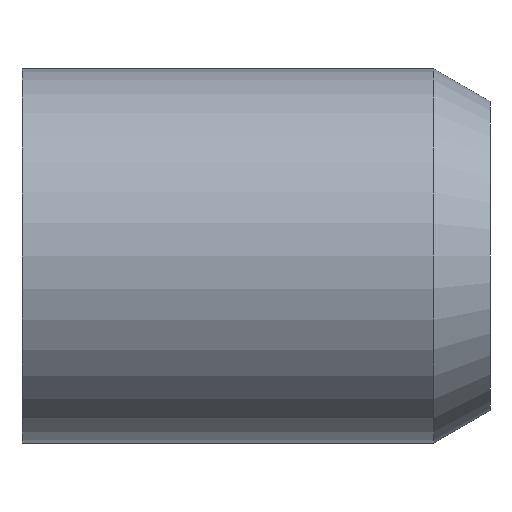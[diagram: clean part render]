
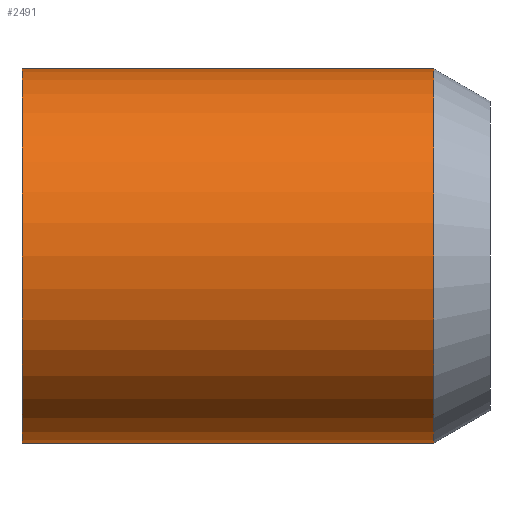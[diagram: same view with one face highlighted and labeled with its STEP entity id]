
A CAD part, left-side view. The second image highlights one B-rep face of the part: STEP entity #2491.
In plain terms, the highlighted cylindrical face has radius 4 mm (diameter 8 mm), a full revolution.
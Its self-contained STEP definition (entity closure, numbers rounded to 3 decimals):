
#202 = AXIS2_PLACEMENT_3D ( 'NONE', #2806, #1344, #586 ) ;
#395 = CIRCLE ( 'NONE', #1564, 4. ) ;
#470 = ORIENTED_EDGE ( 'NONE', *, *, #1708, .T. ) ;
#586 = DIRECTION ( 'NONE',  ( 1., 0., 0. ) ) ;
#1205 = DIRECTION ( 'NONE',  ( 1., 0., 0. ) ) ;
#1344 = DIRECTION ( 'NONE',  ( 0., -1., 0. ) ) ;
#1513 = CYLINDRICAL_SURFACE ( 'NONE', #4484, 4. ) ;
#1564 = AXIS2_PLACEMENT_3D ( 'NONE', #2065, #3539, #4613 ) ;
#1708 = EDGE_CURVE ( 'NONE', #2674, #2674, #395, .T. ) ;
#1974 = FACE_OUTER_BOUND ( 'NONE', #3252, .T. ) ;
#2065 = CARTESIAN_POINT ( 'NONE',  ( 0., 1.2, 0. ) ) ;
#2264 = VERTEX_POINT ( 'NONE', #4368 ) ;
#2491 = ADVANCED_FACE ( 'NONE', ( #1974, #3461 ), #1513, .T. ) ;
#2674 = VERTEX_POINT ( 'NONE', #4722 ) ;
#2806 = CARTESIAN_POINT ( 'NONE',  ( 0., 10., 0. ) ) ;
#3184 = EDGE_CURVE ( 'NONE', #2264, #2264, #3923, .T. ) ;
#3252 = EDGE_LOOP ( 'NONE', ( #470 ) ) ;
#3461 = FACE_OUTER_BOUND ( 'NONE', #4575, .T. ) ;
#3539 = DIRECTION ( 'NONE',  ( 0., 1., 0. ) ) ;
#3585 = ORIENTED_EDGE ( 'NONE', *, *, #3184, .T. ) ;
#3923 = CIRCLE ( 'NONE', #202, 4. ) ;
#4131 = DIRECTION ( 'NONE',  ( 0., -1., 0. ) ) ;
#4368 = CARTESIAN_POINT ( 'NONE',  ( 4., 10., 0. ) ) ;
#4427 = CARTESIAN_POINT ( 'NONE',  ( 0., 0., 0. ) ) ;
#4484 = AXIS2_PLACEMENT_3D ( 'NONE', #4427, #4131, #1205 ) ;
#4575 = EDGE_LOOP ( 'NONE', ( #3585 ) ) ;
#4613 = DIRECTION ( 'NONE',  ( -1., 0., 0. ) ) ;
#4722 = CARTESIAN_POINT ( 'NONE',  ( -4., 1.2, 0. ) ) ;
